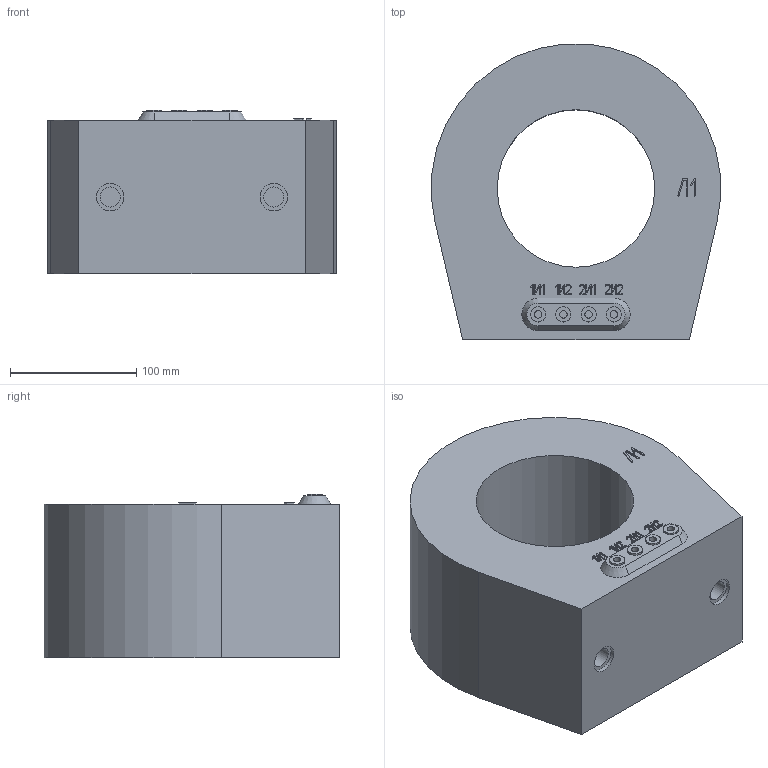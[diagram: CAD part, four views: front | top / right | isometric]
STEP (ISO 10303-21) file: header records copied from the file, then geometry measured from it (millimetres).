
FILE_DESCRIPTION(('STEP AP214'), '1');
FILE_NAME('ÒØË-ÍÒÇ-0.66-13À', '2026-07-23T05:34:35', ('Ïîëüçîâàòåëü Windows'), ('Q'), 'ASCON STEP Converter 1.3', 'ASCON Math Kernel', '');
FILE_SCHEMA(('AUTOMOTIVE_DESIGN { 1 0 10303 214 3 1 1}'));
Length unit declared in the file: millimetre
Bounding box: 229.6 x 234.58 x 130 mm (x, y, z)
Volume: 4076654 mm3; surface area: 215416.1 mm2
Topology: 1 solids, 1 shells, 563 faces, 1602 edges, 1068 vertices
Faces by surface type: cylinder 372, plane 189, cone 2
Full cylindrical faces by diameter (mm): 5.917 x4, 12 x4, 16 x2, 22 x2, 125 x1
Entity records: 23151 total; most frequent: DIRECTION 3465, CARTESIAN_POINT 3221, ORIENTED_EDGE 3178, EDGE_CURVE 1589, AXIS2_PLACEMENT_3D 1312, VERTEX_POINT 1068, LINE 841, VECTOR 841
